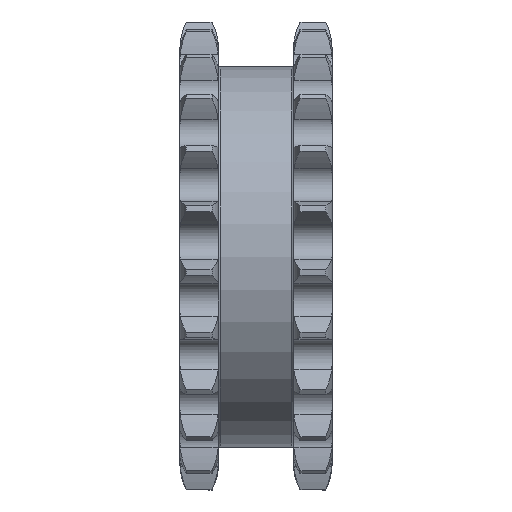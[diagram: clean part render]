
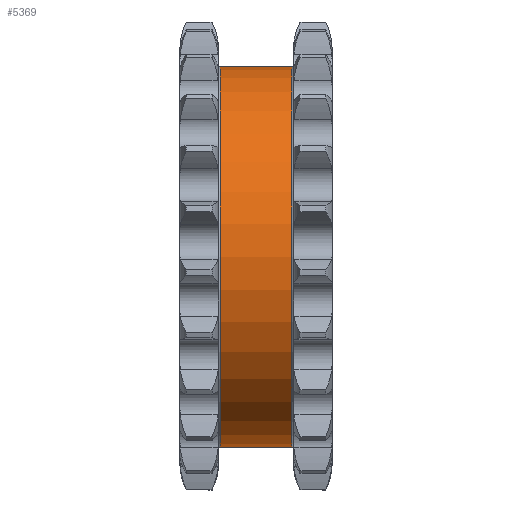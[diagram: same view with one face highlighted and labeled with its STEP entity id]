
A CAD part, top view. The second image highlights one B-rep face of the part: STEP entity #5369.
In plain terms, the highlighted cylindrical face has radius 80 mm (diameter 160 mm), a full revolution.
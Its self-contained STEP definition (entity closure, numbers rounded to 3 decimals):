
#18=FACE_BOUND('',#1264,.T.);
#683=CYLINDRICAL_SURFACE('',#5952,80.);
#969=FACE_OUTER_BOUND('',#1263,.T.);
#1263=EDGE_LOOP('',(#4962));
#1264=EDGE_LOOP('',(#4963));
#1564=CIRCLE('',#5951,80.);
#1565=CIRCLE('',#5953,80.);
#2513=VERTEX_POINT('',#10830);
#2514=VERTEX_POINT('',#10833);
#3367=EDGE_CURVE('',#2513,#2513,#1564,.T.);
#3368=EDGE_CURVE('',#2514,#2514,#1565,.T.);
#4962=ORIENTED_EDGE('',*,*,#3367,.T.);
#4963=ORIENTED_EDGE('',*,*,#3368,.F.);
#5369=ADVANCED_FACE('',(#969,#18),#683,.T.);
#5951=AXIS2_PLACEMENT_3D('',#10831,#7297,#7298);
#5952=AXIS2_PLACEMENT_3D('',#10832,#7299,#7300);
#5953=AXIS2_PLACEMENT_3D('',#10834,#7301,#7302);
#7297=DIRECTION('center_axis',(-1.,0.,0.));
#7298=DIRECTION('ref_axis',(0.,0.,1.));
#7299=DIRECTION('center_axis',(-1.,0.,0.));
#7300=DIRECTION('ref_axis',(0.,-1.,0.));
#7301=DIRECTION('center_axis',(-1.,0.,0.));
#7302=DIRECTION('ref_axis',(0.,0.,1.));
#10830=CARTESIAN_POINT('',(37.491,1.142,0.));
#10831=CARTESIAN_POINT('Origin',(37.491,81.142,0.));
#10832=CARTESIAN_POINT('Origin',(22.491,81.142,0.));
#10833=CARTESIAN_POINT('',(7.491,1.142,0.));
#10834=CARTESIAN_POINT('Origin',(7.491,81.142,0.));
